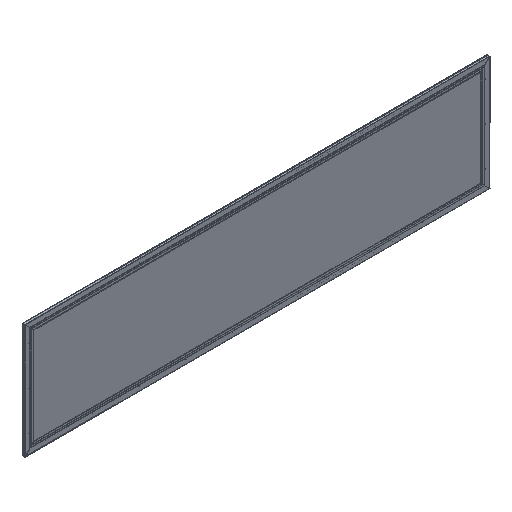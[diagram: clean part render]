
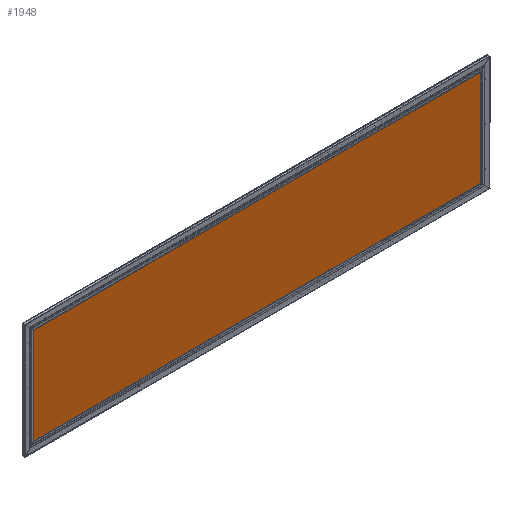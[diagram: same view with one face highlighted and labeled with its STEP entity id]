
A CAD part, isometric view. The second image highlights one B-rep face of the part: STEP entity #1948.
In plain terms, the highlighted planar face has unit normal (0, -1, 0).
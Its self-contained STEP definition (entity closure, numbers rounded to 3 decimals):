
#1948=ADVANCED_FACE('',(#3678),#2907,.T.);
#2907=PLANE('',#18021);
#3678=FACE_OUTER_BOUND('',#4508,.T.);
#4508=EDGE_LOOP('',(#6146,#6147,#6148,#6149));
#6146=ORIENTED_EDGE('',*,*,#12435,.T.);
#6147=ORIENTED_EDGE('',*,*,#12439,.T.);
#6148=ORIENTED_EDGE('',*,*,#12442,.T.);
#6149=ORIENTED_EDGE('',*,*,#12445,.T.);
#10632=VERTEX_POINT('',#25522);
#10633=VERTEX_POINT('',#25523);
#10636=VERTEX_POINT('',#25531);
#10638=VERTEX_POINT('',#25537);
#12435=EDGE_CURVE('',#10632,#10633,#14791,.T.);
#12439=EDGE_CURVE('',#10633,#10636,#14795,.T.);
#12442=EDGE_CURVE('',#10636,#10638,#14798,.T.);
#12445=EDGE_CURVE('',#10638,#10632,#14801,.T.);
#14791=LINE('',#25521,#16403);
#14795=LINE('',#25530,#16407);
#14798=LINE('',#25536,#16410);
#14801=LINE('',#25542,#16413);
#16403=VECTOR('',#20255,1.);
#16407=VECTOR('',#20261,1.);
#16410=VECTOR('',#20266,1.);
#16413=VECTOR('',#20271,1.);
#18021=AXIS2_PLACEMENT_3D('',#25546,#20277,#20278);
#20255=DIRECTION('',(0.,0.,1.));
#20261=DIRECTION('',(-1.,0.,0.));
#20266=DIRECTION('',(0.,0.,-1.));
#20271=DIRECTION('',(1.,0.,0.));
#20277=DIRECTION('',(0.,-1.,0.));
#20278=DIRECTION('',(0.,0.,-1.));
#25521=CARTESIAN_POINT('',(1185.319,102.705,0.));
#25522=CARTESIAN_POINT('',(1185.319,102.705,-275.798));
#25523=CARTESIAN_POINT('',(1185.319,102.705,-16.202));
#25530=CARTESIAN_POINT('',(0.,102.705,-16.202));
#25531=CARTESIAN_POINT('',(25.724,102.705,-16.202));
#25536=CARTESIAN_POINT('',(25.724,102.705,0.));
#25537=CARTESIAN_POINT('',(25.724,102.705,-275.798));
#25542=CARTESIAN_POINT('',(0.,102.705,-275.798));
#25546=CARTESIAN_POINT('',(0.,102.705,0.));
